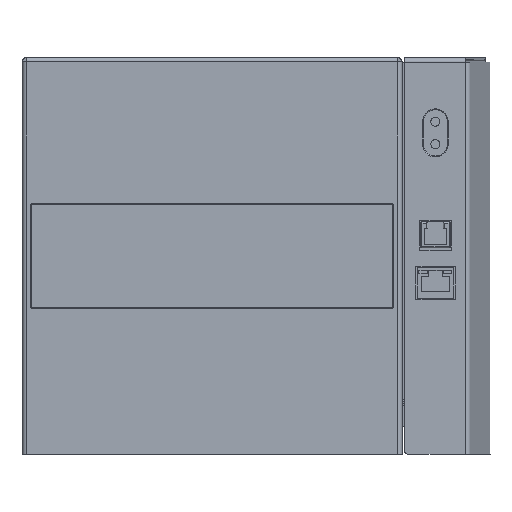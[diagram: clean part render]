
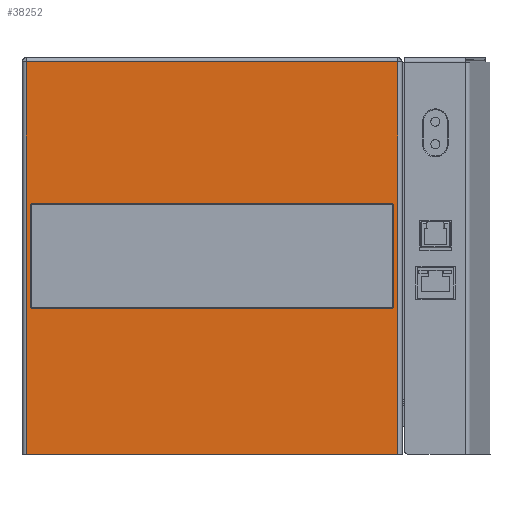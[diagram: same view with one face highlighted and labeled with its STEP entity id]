
A CAD part, top view. The second image highlights one B-rep face of the part: STEP entity #38252.
In plain terms, the highlighted planar face has unit normal (0, 0, 1).
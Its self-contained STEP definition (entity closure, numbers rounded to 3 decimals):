
#4283=DIRECTION('',(-1.,0.,0.));
#4284=VECTOR('',#4283,165.);
#4285=CARTESIAN_POINT('',(166.,0.,1.));
#4286=LINE('',#4285,#4284);
#4287=DIRECTION('',(0.,1.,0.));
#4288=VECTOR('',#4287,174.5);
#4289=CARTESIAN_POINT('',(1.,0.,1.));
#4290=LINE('',#4289,#4288);
#4291=CARTESIAN_POINT('',(163.5,65.75,1.));
#4292=DIRECTION('',(0.,0.,1.));
#4293=DIRECTION('',(0.,-1.,0.));
#4294=AXIS2_PLACEMENT_3D('',#4291,#4292,#4293);
#4296=CARTESIAN_POINT('',(163.5,110.75,1.));
#4297=DIRECTION('',(0.,0.,1.));
#4298=DIRECTION('',(1.,0.,0.));
#4299=AXIS2_PLACEMENT_3D('',#4296,#4297,#4298);
#4301=CARTESIAN_POINT('',(3.5,110.75,1.));
#4302=DIRECTION('',(0.,0.,1.));
#4303=DIRECTION('',(0.,1.,0.));
#4304=AXIS2_PLACEMENT_3D('',#4301,#4302,#4303);
#4306=CARTESIAN_POINT('',(3.5,65.75,1.));
#4307=DIRECTION('',(0.,0.,1.));
#4308=DIRECTION('',(-1.,0.,0.));
#4309=AXIS2_PLACEMENT_3D('',#4306,#4307,#4308);
#4315=DIRECTION('',(0.,1.,0.));
#4316=VECTOR('',#4315,174.5);
#4317=CARTESIAN_POINT('',(166.,0.,1.));
#4318=LINE('',#4317,#4316);
#4319=DIRECTION('',(-1.,0.,0.));
#4320=VECTOR('',#4319,165.);
#4321=CARTESIAN_POINT('',(166.,174.5,1.));
#4322=LINE('',#4321,#4320);
#4323=DIRECTION('',(-1.,0.,0.));
#4324=VECTOR('',#4323,160.);
#4325=CARTESIAN_POINT('',(163.5,65.05,1.));
#4326=LINE('',#4325,#4324);
#4337=DIRECTION('',(0.,1.,0.));
#4338=VECTOR('',#4337,45.);
#4339=CARTESIAN_POINT('',(2.8,65.75,1.));
#4340=LINE('',#4339,#4338);
#4351=DIRECTION('',(1.,0.,0.));
#4352=VECTOR('',#4351,160.);
#4353=CARTESIAN_POINT('',(3.5,111.45,1.));
#4354=LINE('',#4353,#4352);
#4365=DIRECTION('',(0.,-1.,0.));
#4366=VECTOR('',#4365,45.);
#4367=CARTESIAN_POINT('',(164.2,110.75,1.));
#4368=LINE('',#4367,#4366);
#26385=CARTESIAN_POINT('',(1.,174.5,1.));
#26387=VERTEX_POINT('',#26385);
#26526=CARTESIAN_POINT('',(166.,0.,1.));
#26527=CARTESIAN_POINT('',(1.,0.,1.));
#26528=VERTEX_POINT('',#26526);
#26529=VERTEX_POINT('',#26527);
#26536=CARTESIAN_POINT('',(166.,174.5,1.));
#26537=VERTEX_POINT('',#26536);
#26668=CARTESIAN_POINT('',(163.5,65.05,1.));
#26669=CARTESIAN_POINT('',(164.2,65.75,1.));
#26670=VERTEX_POINT('',#26668);
#26671=VERTEX_POINT('',#26669);
#26676=CARTESIAN_POINT('',(3.5,65.05,
1.));
#26677=VERTEX_POINT('',#26676);
#26680=CARTESIAN_POINT('',(2.8,65.75,
1.));
#26681=VERTEX_POINT('',#26680);
#26684=CARTESIAN_POINT('',(2.8,110.75,1.));
#26685=VERTEX_POINT('',#26684);
#26688=CARTESIAN_POINT('',(3.5,111.45,
1.));
#26689=VERTEX_POINT('',#26688);
#26692=CARTESIAN_POINT('',(163.5,111.45,1.));
#26693=VERTEX_POINT('',#26692);
#26696=CARTESIAN_POINT('',(164.2,110.75,
1.));
#26697=VERTEX_POINT('',#26696);
#38221=CARTESIAN_POINT('',(83.5,87.25,1.));
#38222=DIRECTION('',(0.,0.,1.));
#38223=DIRECTION('',(0.,-1.,0.));
#38224=AXIS2_PLACEMENT_3D('',#38221,#38222,#38223);
#38225=PLANE('',#38224);
#38227=ORIENTED_EDGE('',*,*,#38226,.F.);
#38228=ORIENTED_EDGE('',*,*,#38163,.T.);
#38229=ORIENTED_EDGE('',*,*,#38213,.T.);
#38231=ORIENTED_EDGE('',*,*,#38230,.F.);
#38232=EDGE_LOOP('',(#38227,#38228,#38229,#38231));
#38233=FACE_OUTER_BOUND('',#38232,.F.);
#38235=ORIENTED_EDGE('',*,*,#38234,.T.);
#38237=ORIENTED_EDGE('',*,*,#38236,.F.);
#38239=ORIENTED_EDGE('',*,*,#38238,.T.);
#38241=ORIENTED_EDGE('',*,*,#38240,.F.);
#38243=ORIENTED_EDGE('',*,*,#38242,.T.);
#38245=ORIENTED_EDGE('',*,*,#38244,.F.);
#38247=ORIENTED_EDGE('',*,*,#38246,.T.);
#38249=ORIENTED_EDGE('',*,*,#38248,.F.);
#38250=EDGE_LOOP('',(#38235,#38237,#38239,#38241,#38243,#38245,#38247,#38249));
#38251=FACE_BOUND('',#38250,.F.);
#4295=CIRCLE('',#4294,0.7);
#4300=CIRCLE('',#4299,0.7);
#4305=CIRCLE('',#4304,0.7);
#4310=CIRCLE('',#4309,0.7);
#38163=EDGE_CURVE('',#26528,#26529,#4286,.T.);
#38213=EDGE_CURVE('',#26529,#26387,#4290,.T.);
#38226=EDGE_CURVE('',#26528,#26537,#4318,.T.);
#38230=EDGE_CURVE('',#26537,#26387,#4322,.T.);
#38234=EDGE_CURVE('',#26670,#26671,#4295,.T.);
#38236=EDGE_CURVE('',#26697,#26671,#4368,.T.);
#38238=EDGE_CURVE('',#26697,#26693,#4300,.T.);
#38240=EDGE_CURVE('',#26689,#26693,#4354,.T.);
#38242=EDGE_CURVE('',#26689,#26685,#4305,.T.);
#38244=EDGE_CURVE('',#26681,#26685,#4340,.T.);
#38246=EDGE_CURVE('',#26681,#26677,#4310,.T.);
#38248=EDGE_CURVE('',#26670,#26677,#4326,.T.);
#38252=ADVANCED_FACE('',(#38233,#38251),#38225,.T.);
